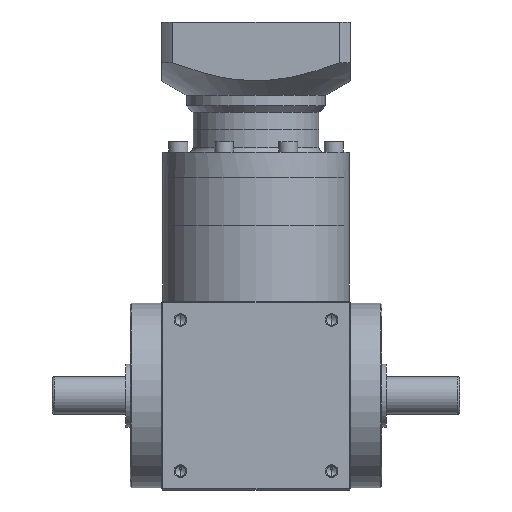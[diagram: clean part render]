
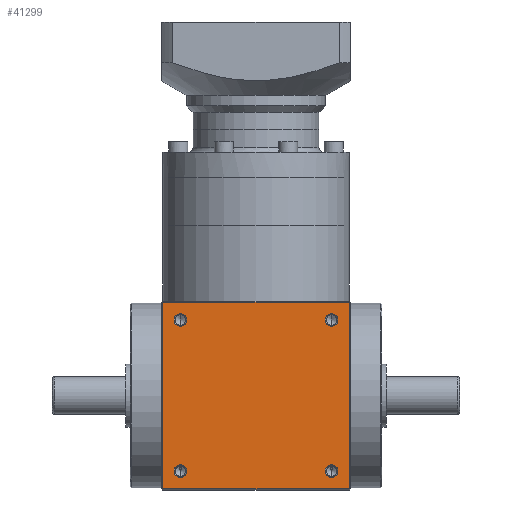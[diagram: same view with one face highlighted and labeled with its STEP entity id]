
A CAD part, front view. The second image highlights one B-rep face of the part: STEP entity #41299.
In plain terms, the highlighted planar face has unit normal (0, -1, 0).
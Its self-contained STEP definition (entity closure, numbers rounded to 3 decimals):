
#230 = DIRECTION ( 'NONE',  ( 0., 0., -1. ) ) ;
#809 = CIRCLE ( 'NONE', #38182, 3.025 ) ;
#1478 = FACE_BOUND ( 'NONE', #46603, .T. ) ;
#2013 = EDGE_CURVE ( 'NONE', #40564, #11778, #7680, .T. ) ;
#3622 = EDGE_LOOP ( 'NONE', ( #40611, #49433, #21562, #50767 ) ) ;
#3769 = DIRECTION ( 'NONE',  ( 0., 0., -1. ) ) ;
#3816 = CIRCLE ( 'NONE', #6776, 3.025 ) ;
#3838 = VERTEX_POINT ( 'NONE', #31449 ) ;
#4568 = VECTOR ( 'NONE', #14990, 1000. ) ;
#4768 = CARTESIAN_POINT ( 'NONE',  ( -45., -45., 0.5 ) ) ;
#4971 = AXIS2_PLACEMENT_3D ( 'NONE', #37742, #13392, #41842 ) ;
#5716 = VECTOR ( 'NONE', #40369, 1000. ) ;
#6776 = AXIS2_PLACEMENT_3D ( 'NONE', #45946, #21612, #50030 ) ;
#7193 = CARTESIAN_POINT ( 'NONE',  ( 36., -45., 9. ) ) ;
#7505 = AXIS2_PLACEMENT_3D ( 'NONE', #31954, #7600, #36026 ) ;
#7600 = DIRECTION ( 'NONE',  ( 0., -1., 0. ) ) ;
#7680 = CIRCLE ( 'NONE', #45075, 3.025 ) ;
#7838 = CARTESIAN_POINT ( 'NONE',  ( -44.5, -45., 90. ) ) ;
#8029 = VERTEX_POINT ( 'NONE', #32277 ) ;
#8894 = DIRECTION ( 'NONE',  ( -1., 0., 0. ) ) ;
#9238 = EDGE_CURVE ( 'NONE', #11778, #40564, #11475, .T. ) ;
#9240 = VERTEX_POINT ( 'NONE', #44889 ) ;
#10166 = CARTESIAN_POINT ( 'NONE',  ( 44.5, -45., 89.5 ) ) ;
#10913 = CARTESIAN_POINT ( 'NONE',  ( 44.5, -45., 90. ) ) ;
#11311 = DIRECTION ( 'NONE',  ( 0., 0., -1. ) ) ;
#11475 = CIRCLE ( 'NONE', #15417, 3.025 ) ;
#11778 = VERTEX_POINT ( 'NONE', #51047 ) ;
#12683 = CARTESIAN_POINT ( 'NONE',  ( -36., -45., 9. ) ) ;
#13392 = DIRECTION ( 'NONE',  ( 0., -1., 0. ) ) ;
#13419 = CARTESIAN_POINT ( 'NONE',  ( -36., -45., 5.975 ) ) ;
#13907 = EDGE_LOOP ( 'NONE', ( #36285, #20636 ) ) ;
#14990 = DIRECTION ( 'NONE',  ( 0., 0., -1. ) ) ;
#15417 = AXIS2_PLACEMENT_3D ( 'NONE', #49009, #24660, #230 ) ;
#15791 = VERTEX_POINT ( 'NONE', #25418 ) ;
#16186 = ORIENTED_EDGE ( 'NONE', *, *, #38960, .F. ) ;
#16698 = LINE ( 'NONE', #10913, #4568 ) ;
#16786 = DIRECTION ( 'NONE',  ( 0., 0., -1. ) ) ;
#16804 = VERTEX_POINT ( 'NONE', #19470 ) ;
#16828 = CIRCLE ( 'NONE', #7505, 3.025 ) ;
#18107 = ORIENTED_EDGE ( 'NONE', *, *, #9238, .F. ) ;
#18509 = DIRECTION ( 'NONE',  ( 0., -1., 0. ) ) ;
#18581 = VERTEX_POINT ( 'NONE', #19101 ) ;
#19101 = CARTESIAN_POINT ( 'NONE',  ( 36., -45., 77.975 ) ) ;
#19470 = CARTESIAN_POINT ( 'NONE',  ( -44.5, -45., 89.5 ) ) ;
#19676 = DIRECTION ( 'NONE',  ( 1., 0., 0. ) ) ;
#20636 = ORIENTED_EDGE ( 'NONE', *, *, #35194, .F. ) ;
#21162 = PLANE ( 'NONE',  #51647 ) ;
#21164 = ORIENTED_EDGE ( 'NONE', *, *, #44869, .F. ) ;
#21562 = ORIENTED_EDGE ( 'NONE', *, *, #51688, .F. ) ;
#21612 = DIRECTION ( 'NONE',  ( 0., -1., 0. ) ) ;
#23163 = FACE_BOUND ( 'NONE', #13907, .T. ) ;
#24660 = DIRECTION ( 'NONE',  ( 0., -1., 0. ) ) ;
#25418 = CARTESIAN_POINT ( 'NONE',  ( 36., -45., 12.025 ) ) ;
#25614 = DIRECTION ( 'NONE',  ( 0., 0., 1. ) ) ;
#27348 = CARTESIAN_POINT ( 'NONE',  ( 36., -45., 84.025 ) ) ;
#28163 = DIRECTION ( 'NONE',  ( 0., -1., 0. ) ) ;
#28743 = AXIS2_PLACEMENT_3D ( 'NONE', #42851, #18509, #46962 ) ;
#30085 = CIRCLE ( 'NONE', #4971, 3.025 ) ;
#30866 = CIRCLE ( 'NONE', #49524, 3.025 ) ;
#31449 = CARTESIAN_POINT ( 'NONE',  ( -36., -45., 84.025 ) ) ;
#31456 = ORIENTED_EDGE ( 'NONE', *, *, #34489, .F. ) ;
#31487 = EDGE_CURVE ( 'NONE', #9240, #40852, #36417, .T. ) ;
#31954 = CARTESIAN_POINT ( 'NONE',  ( 36., -45., 81. ) ) ;
#32277 = CARTESIAN_POINT ( 'NONE',  ( -36., -45., 77.975 ) ) ;
#32667 = FACE_OUTER_BOUND ( 'NONE', #3622, .T. ) ;
#33500 = EDGE_LOOP ( 'NONE', ( #31456, #16186 ) ) ;
#34489 = EDGE_CURVE ( 'NONE', #18581, #44529, #16828, .T. ) ;
#35194 = EDGE_CURVE ( 'NONE', #15791, #52720, #809, .T. ) ;
#35634 = DIRECTION ( 'NONE',  ( 0., -1., 0. ) ) ;
#35667 = VECTOR ( 'NONE', #19676, 1000. ) ;
#35954 = CARTESIAN_POINT ( 'NONE',  ( -44.5, -45., 0.5 ) ) ;
#36026 = DIRECTION ( 'NONE',  ( 0., 0., -1. ) ) ;
#36285 = ORIENTED_EDGE ( 'NONE', *, *, #41996, .F. ) ;
#36417 = LINE ( 'NONE', #4768, #44684 ) ;
#36505 = FACE_BOUND ( 'NONE', #37773, .T. ) ;
#36940 = LINE ( 'NONE', #48106, #35667 ) ;
#37123 = EDGE_CURVE ( 'NONE', #38915, #9240, #16698, .T. ) ;
#37742 = CARTESIAN_POINT ( 'NONE',  ( 36., -45., 9. ) ) ;
#37773 = EDGE_LOOP ( 'NONE', ( #49981, #21164 ) ) ;
#38178 = LINE ( 'NONE', #7838, #5716 ) ;
#38182 = AXIS2_PLACEMENT_3D ( 'NONE', #7193, #35634, #11311 ) ;
#38735 = EDGE_CURVE ( 'NONE', #40852, #16804, #38178, .T. ) ;
#38915 = VERTEX_POINT ( 'NONE', #10166 ) ;
#38960 = EDGE_CURVE ( 'NONE', #44529, #18581, #50888, .T. ) ;
#39975 = CARTESIAN_POINT ( 'NONE',  ( 36., -45., 5.975 ) ) ;
#40369 = DIRECTION ( 'NONE',  ( 0., 0., 1. ) ) ;
#40564 = VERTEX_POINT ( 'NONE', #13419 ) ;
#40611 = ORIENTED_EDGE ( 'NONE', *, *, #31487, .F. ) ;
#40852 = VERTEX_POINT ( 'NONE', #35954 ) ;
#41130 = DIRECTION ( 'NONE',  ( 0., -1., 0. ) ) ;
#41299 = ADVANCED_FACE ( 'NONE', ( #43503, #36505, #23163, #1478, #32667 ), #21162, .F. ) ;
#41760 = CARTESIAN_POINT ( 'NONE',  ( -45., -45., 90. ) ) ;
#41842 = DIRECTION ( 'NONE',  ( 0., 0., -1. ) ) ;
#41996 = EDGE_CURVE ( 'NONE', #52720, #15791, #30085, .T. ) ;
#42851 = CARTESIAN_POINT ( 'NONE',  ( 36., -45., 81. ) ) ;
#43503 = FACE_BOUND ( 'NONE', #33500, .T. ) ;
#43602 = ORIENTED_EDGE ( 'NONE', *, *, #2013, .F. ) ;
#44529 = VERTEX_POINT ( 'NONE', #27348 ) ;
#44684 = VECTOR ( 'NONE', #8894, 1000. ) ;
#44869 = EDGE_CURVE ( 'NONE', #3838, #8029, #3816, .T. ) ;
#44889 = CARTESIAN_POINT ( 'NONE',  ( 44.5, -45., 0.5 ) ) ;
#45075 = AXIS2_PLACEMENT_3D ( 'NONE', #12683, #41130, #16786 ) ;
#45946 = CARTESIAN_POINT ( 'NONE',  ( -36., -45., 81. ) ) ;
#46603 = EDGE_LOOP ( 'NONE', ( #43602, #18107 ) ) ;
#46962 = DIRECTION ( 'NONE',  ( 0., 0., -1. ) ) ;
#48106 = CARTESIAN_POINT ( 'NONE',  ( -45., -45., 89.5 ) ) ;
#48259 = EDGE_CURVE ( 'NONE', #8029, #3838, #30866, .T. ) ;
#49009 = CARTESIAN_POINT ( 'NONE',  ( -36., -45., 9. ) ) ;
#49433 = ORIENTED_EDGE ( 'NONE', *, *, #37123, .F. ) ;
#49524 = AXIS2_PLACEMENT_3D ( 'NONE', #52488, #28163, #3769 ) ;
#49924 = DIRECTION ( 'NONE',  ( 0., 1., 0. ) ) ;
#49981 = ORIENTED_EDGE ( 'NONE', *, *, #48259, .F. ) ;
#50030 = DIRECTION ( 'NONE',  ( 0., 0., -1. ) ) ;
#50767 = ORIENTED_EDGE ( 'NONE', *, *, #38735, .F. ) ;
#50888 = CIRCLE ( 'NONE', #28743, 3.025 ) ;
#51047 = CARTESIAN_POINT ( 'NONE',  ( -36., -45., 12.025 ) ) ;
#51647 = AXIS2_PLACEMENT_3D ( 'NONE', #41760, #49924, #25614 ) ;
#51688 = EDGE_CURVE ( 'NONE', #16804, #38915, #36940, .T. ) ;
#52488 = CARTESIAN_POINT ( 'NONE',  ( -36., -45., 81. ) ) ;
#52720 = VERTEX_POINT ( 'NONE', #39975 ) ;
